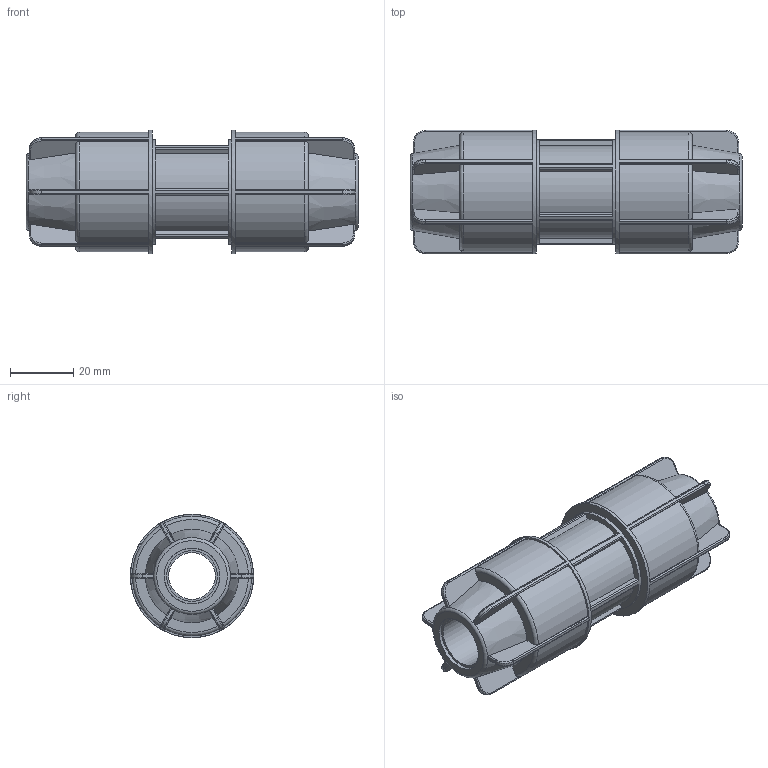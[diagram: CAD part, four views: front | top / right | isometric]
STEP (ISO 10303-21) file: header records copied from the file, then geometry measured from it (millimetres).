
FILE_DESCRIPTION(/* description */ ('PLASSON L.14 COUPLER (SILVER) 16'),/* implementation_level */ '2;1');
FILE_NAME(/* name */ 'C:\Dropbox\KIMPROJECTS-Inventor\99-16-3568-Processing\Silver Fittings\140100\140100016.ipt.stp',/* time_stamp */ '2018-06-12T15:52:38+03:00',/* author */ ('KIM'),/* organization */ (''),/* preprocessor_version */ 'ST-DEVELOPER v15.6',/* originating_system */ 'Autodesk Inventor 2015',/* authorisation */ '');
FILE_SCHEMA (('AUTOMOTIVE_DESIGN { 1 0 10303 214 3 1 1 }'));
Length unit declared in the file: millimetre
Products named in the file (1): 140100016
Bounding box: 105 x 39 x 39 mm (x, y, z)
Volume: 70839.9 mm3; surface area: 21215.8 mm2
Topology: 1 solids, 1 shells, 230 faces, 603 edges, 386 vertices
Faces by surface type: plane 92, cylinder 86, torus 26, bspline 24, cone 2
Full cylindrical faces by diameter (mm): 14.72 x1, 16 x2, 17.6 x2, 33.15 x1, 39 x2
Entity records: 7960 total; most frequent: CARTESIAN_POINT 2499, ORIENTED_EDGE 1164, DIRECTION 1110, EDGE_CURVE 582, AXIS2_PLACEMENT_3D 441, VERTEX_POINT 378, EDGE_LOOP 256, CIRCLE 234
